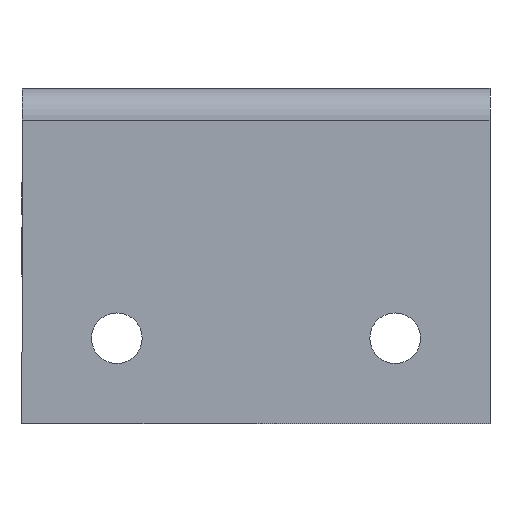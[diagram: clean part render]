
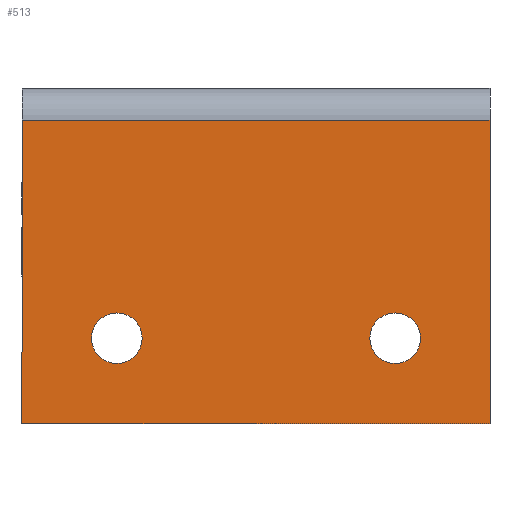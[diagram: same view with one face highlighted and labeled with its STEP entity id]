
A CAD part, front view. The second image highlights one B-rep face of the part: STEP entity #513.
In plain terms, the highlighted planar face has unit normal (0, -1, 0).
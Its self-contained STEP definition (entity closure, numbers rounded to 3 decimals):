
#17 = DIRECTION ( 'NONE',  ( 0., 0., -1. ) ) ;
#29 = VERTEX_POINT ( 'NONE', #1547 ) ;
#35 = LINE ( 'NONE', #237, #588 ) ;
#38 = LINE ( 'NONE', #1415, #133 ) ;
#54 = CIRCLE ( 'NONE', #1168, 4. ) ;
#56 = EDGE_CURVE ( 'NONE', #231, #177, #730, .T. ) ;
#63 = EDGE_LOOP ( 'NONE', ( #1146, #1033 ) ) ;
#70 = EDGE_CURVE ( 'NONE', #29, #1004, #1399, .T. ) ;
#75 = CARTESIAN_POINT ( 'NONE',  ( -74., -172.2, -24. ) ) ;
#133 = VECTOR ( 'NONE', #1173, 1000. ) ;
#162 = VERTEX_POINT ( 'NONE', #1316 ) ;
#177 = VERTEX_POINT ( 'NONE', #705 ) ;
#192 = VECTOR ( 'NONE', #1542, 1000. ) ;
#212 = CARTESIAN_POINT ( 'NONE',  ( -74., -172.2, 24. ) ) ;
#218 = ORIENTED_EDGE ( 'NONE', *, *, #56, .T. ) ;
#220 = DIRECTION ( 'NONE',  ( 0., 0., -1. ) ) ;
#225 = CARTESIAN_POINT ( 'NONE',  ( -59., -172.2, -6.5 ) ) ;
#231 = VERTEX_POINT ( 'NONE', #985 ) ;
#237 = CARTESIAN_POINT ( 'NONE',  ( 0., -172.2, 10.638 ) ) ;
#253 = EDGE_LOOP ( 'NONE', ( #584, #1403 ) ) ;
#257 = CARTESIAN_POINT ( 'NONE',  ( -15., -172.2, -10.5 ) ) ;
#277 = AXIS2_PLACEMENT_3D ( 'NONE', #75, #1293, #1290 ) ;
#315 = EDGE_CURVE ( 'NONE', #1004, #29, #1490, .T. ) ;
#320 = CARTESIAN_POINT ( 'NONE',  ( -59., -172.2, -14.5 ) ) ;
#322 = CARTESIAN_POINT ( 'NONE',  ( -15., -172.2, -10.5 ) ) ;
#329 = AXIS2_PLACEMENT_3D ( 'NONE', #257, #1579, #17 ) ;
#358 = CARTESIAN_POINT ( 'NONE',  ( -59., -172.2, -10.5 ) ) ;
#387 = CARTESIAN_POINT ( 'NONE',  ( -15., -172.2, -14.5 ) ) ;
#426 = DIRECTION ( 'NONE',  ( 1., 0., 0. ) ) ;
#497 = FACE_BOUND ( 'NONE', #63, .T. ) ;
#500 = VERTEX_POINT ( 'NONE', #212 ) ;
#512 = EDGE_CURVE ( 'NONE', #500, #162, #767, .T. ) ;
#513 = ADVANCED_FACE ( 'NONE', ( #497, #726, #1298 ), #1297, .T. ) ;
#532 = VERTEX_POINT ( 'NONE', #320 ) ;
#535 = AXIS2_PLACEMENT_3D ( 'NONE', #945, #1424, #796 ) ;
#549 = EDGE_CURVE ( 'NONE', #658, #532, #797, .T. ) ;
#584 = ORIENTED_EDGE ( 'NONE', *, *, #1337, .T. ) ;
#588 = VECTOR ( 'NONE', #1091, 1000. ) ;
#590 = EDGE_CURVE ( 'NONE', #231, #500, #38, .T. ) ;
#658 = VERTEX_POINT ( 'NONE', #225 ) ;
#686 = DIRECTION ( 'NONE',  ( 0., 0., -1. ) ) ;
#705 = CARTESIAN_POINT ( 'NONE',  ( 0., -172.2, -24. ) ) ;
#726 = FACE_BOUND ( 'NONE', #253, .T. ) ;
#730 = LINE ( 'NONE', #798, #192 ) ;
#767 = LINE ( 'NONE', #1042, #1488 ) ;
#796 = DIRECTION ( 'NONE',  ( 0., 0., -1. ) ) ;
#797 = CIRCLE ( 'NONE', #535, 4. ) ;
#798 = CARTESIAN_POINT ( 'NONE',  ( -74., -172.2, -24. ) ) ;
#907 = ORIENTED_EDGE ( 'NONE', *, *, #512, .F. ) ;
#918 = ORIENTED_EDGE ( 'NONE', *, *, #1294, .T. ) ;
#945 = CARTESIAN_POINT ( 'NONE',  ( -59., -172.2, -10.5 ) ) ;
#985 = CARTESIAN_POINT ( 'NONE',  ( -74., -172.2, -24. ) ) ;
#1004 = VERTEX_POINT ( 'NONE', #387 ) ;
#1033 = ORIENTED_EDGE ( 'NONE', *, *, #70, .T. ) ;
#1042 = CARTESIAN_POINT ( 'NONE',  ( -74., -172.2, 24. ) ) ;
#1075 = ORIENTED_EDGE ( 'NONE', *, *, #590, .F. ) ;
#1091 = DIRECTION ( 'NONE',  ( 0., 0., 1. ) ) ;
#1146 = ORIENTED_EDGE ( 'NONE', *, *, #315, .T. ) ;
#1168 = AXIS2_PLACEMENT_3D ( 'NONE', #358, #1575, #220 ) ;
#1170 = DIRECTION ( 'NONE',  ( 0., 1., 0. ) ) ;
#1173 = DIRECTION ( 'NONE',  ( 0., 0., 1. ) ) ;
#1188 = EDGE_LOOP ( 'NONE', ( #918, #907, #1075, #218 ) ) ;
#1290 = DIRECTION ( 'NONE',  ( 0., 0., -1. ) ) ;
#1293 = DIRECTION ( 'NONE',  ( 0., -1., 0. ) ) ;
#1294 = EDGE_CURVE ( 'NONE', #177, #162, #35, .T. ) ;
#1297 = PLANE ( 'NONE',  #277 ) ;
#1298 = FACE_OUTER_BOUND ( 'NONE', #1188, .T. ) ;
#1316 = CARTESIAN_POINT ( 'NONE',  ( 0., -172.2, 24. ) ) ;
#1337 = EDGE_CURVE ( 'NONE', #532, #658, #54, .T. ) ;
#1399 = CIRCLE ( 'NONE', #1426, 4. ) ;
#1403 = ORIENTED_EDGE ( 'NONE', *, *, #549, .T. ) ;
#1415 = CARTESIAN_POINT ( 'NONE',  ( -74., -172.2, 11.683 ) ) ;
#1424 = DIRECTION ( 'NONE',  ( 0., 1., 0. ) ) ;
#1426 = AXIS2_PLACEMENT_3D ( 'NONE', #322, #1170, #686 ) ;
#1488 = VECTOR ( 'NONE', #426, 1000. ) ;
#1490 = CIRCLE ( 'NONE', #329, 4. ) ;
#1542 = DIRECTION ( 'NONE',  ( 1., 0., 0. ) ) ;
#1547 = CARTESIAN_POINT ( 'NONE',  ( -15., -172.2, -6.5 ) ) ;
#1575 = DIRECTION ( 'NONE',  ( 0., 1., 0. ) ) ;
#1579 = DIRECTION ( 'NONE',  ( 0., 1., 0. ) ) ;
